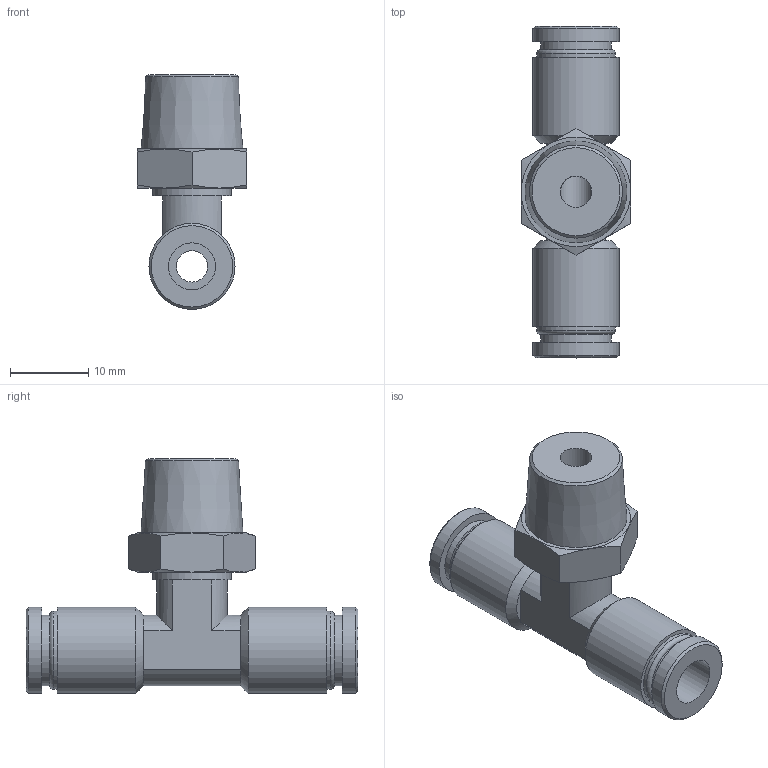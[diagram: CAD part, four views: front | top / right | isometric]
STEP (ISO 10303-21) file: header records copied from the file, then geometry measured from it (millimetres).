
FILE_DESCRIPTION(/* description */ (''),/* implementation_level */ '2;1');
FILE_NAME(/* name */ 'LXH31 0006 B2.stp',/* time_stamp */ '2026-04-22T20:55:43+02:00',/* author */ ('freju'),/* organization */ (''),/* preprocessor_version */ 'ST-DEVELOPER v20.1',/* originating_system */ 'Autodesk Inventor 2026',/* authorisation */ '');
FILE_SCHEMA (('AUTOMOTIVE_DESIGN { 1 0 10303 214 3 1 1 }'));
Length unit declared in the file: millimetre
Products named in the file (1): LXH31 0006 B2
Bounding box: 14 x 42.4 x 30 mm (x, y, z)
Volume: 4485.7 mm3; surface area: 3628.1 mm2
Topology: 1 solids, 1 shells, 62 faces, 133 edges, 81 vertices
Faces by surface type: plane 24, cylinder 18, cone 18, torus 2
Full cylindrical faces by diameter (mm): 4 x2, 6 x2, 9 x2, 10 x3, 11 x4
Entity records: 1707 total; most frequent: CARTESIAN_POINT 325, DIRECTION 302, ORIENTED_EDGE 266, EDGE_CURVE 133, AXIS2_PLACEMENT_3D 130, VERTEX_POINT 81, EDGE_LOOP 74, CIRCLE 63
